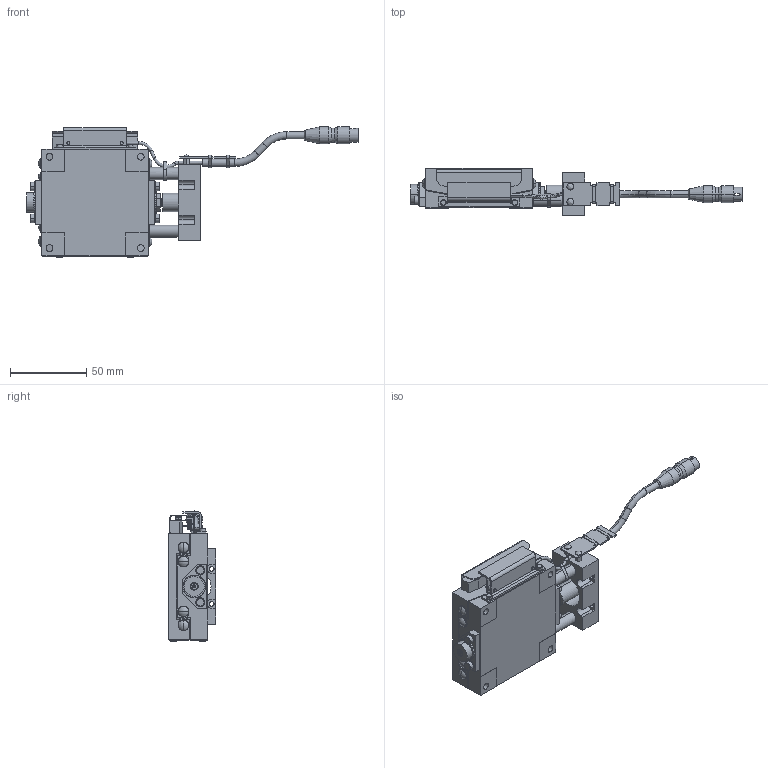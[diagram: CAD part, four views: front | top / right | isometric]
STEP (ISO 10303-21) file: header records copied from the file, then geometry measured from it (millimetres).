
FILE_DESCRIPTION (( 'STEP AP203' ), '1' );
FILE_NAME ('KGB07122ATV-RP28.STEP', '2024-03-25T09:38:50', ( '' ), ( '' ), 'SwSTEP 2.0', 'SolidWorks 2017', '' );
FILE_SCHEMA (( 'CONFIG_CONTROL_DESIGN' ));
Length unit declared in the file: millimetre
Products named in the file (6): 60-P28_C; KGB-TOP-07122-R; KGB-70-T-6-R; KGB07122ATV-RP28; KGB-BASE-07122-R; KGB-70-P28_CADENAS
Assembly tree (5 placements, depth 2):
  KGB07122ATV-RP28
    KGB-BASE-07122-R
    KGB-TOP-07122-R
    KGB-70-P28_CADENAS
    KGB-70-T-6-R
    60-P28_C
Bounding box: 218.2 x 31 x 85.5 mm (x, y, z)
Volume: 147385.6 mm3; surface area: 57880.7 mm2
Topology: 11 solids, 46 shells, 1277 faces, 3159 edges, 2032 vertices
Faces by surface type: plane 673, cylinder 430, cone 100, torus 44, sphere 20, bspline 10
Entity records: 38973 total; most frequent: CARTESIAN_POINT 7220, DIRECTION 6727, ORIENTED_EDGE 6226, EDGE_CURVE 3113, AXIS2_PLACEMENT_3D 2371, VERTEX_POINT 2032, LINE 1985, VECTOR 1985
